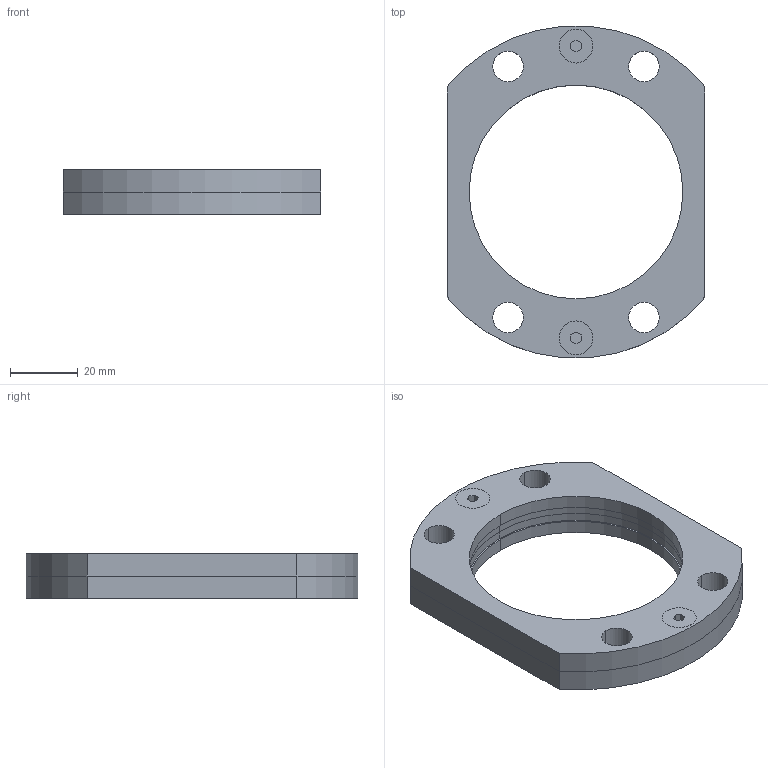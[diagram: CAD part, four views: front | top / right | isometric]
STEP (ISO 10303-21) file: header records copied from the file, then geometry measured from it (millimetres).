
FILE_DESCRIPTION(/* description */ (''),/* implementation_level */ '2;1');
FILE_NAME(/* name */ '3d_fm-63_03759_r00.stp',/* time_stamp */ '2011-01-10T14:15:37+09:00',/* author */ ('MISUMI'),/* organization */ (''),/* preprocessor_version */ 'ST-DEVELOPER v11',/* originating_system */ 'UGS - NX 5.0',/* authorisation */ '');
FILE_SCHEMA (('CONFIG_CONTROL_DESIGN'));
Length unit declared in the file: millimetre
Products named in the file (1): 3d_fm-63_03759_r00
Bounding box: 76 x 97.68 x 13 mm (x, y, z)
Volume: 41435.1 mm3; surface area: 21800.4 mm2
Topology: 4 solids, 4 shells, 80 faces, 192 edges, 124 vertices
Faces by surface type: cylinder 40, plane 28, cone 12
Entity records: 2488 total; most frequent: DIRECTION 446, CARTESIAN_POINT 397, ORIENTED_EDGE 384, EDGE_CURVE 192, AXIS2_PLACEMENT_3D 173, VERTEX_POINT 124, EDGE_LOOP 112, LINE 100
